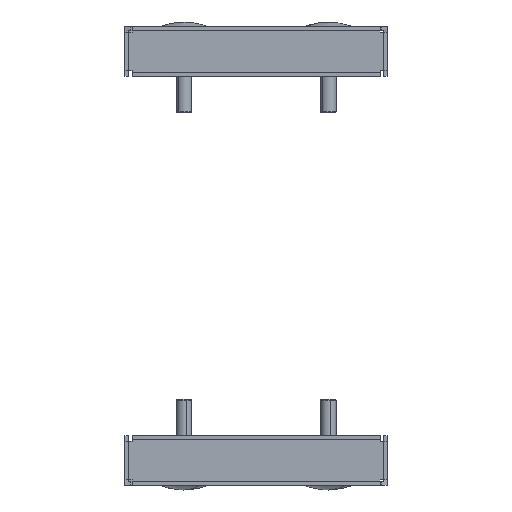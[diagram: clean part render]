
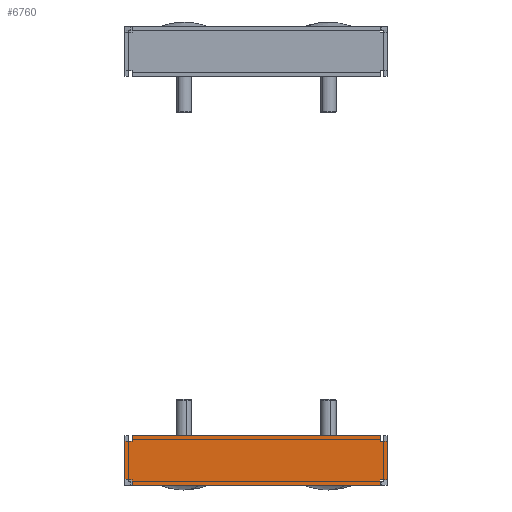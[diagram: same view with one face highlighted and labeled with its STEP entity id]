
A CAD part, left-side view. The second image highlights one B-rep face of the part: STEP entity #6760.
In plain terms, the highlighted planar face has unit normal (-1, 0, 0).
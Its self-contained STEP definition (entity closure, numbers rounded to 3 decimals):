
#11 = VERTEX_POINT ( 'NONE', #6403 ) ;
#55 = DIRECTION ( 'NONE',  ( 0., 1., 0. ) ) ;
#82 = DIRECTION ( 'NONE',  ( 0., 0., 1. ) ) ;
#228 = VERTEX_POINT ( 'NONE', #8610 ) ;
#248 = CARTESIAN_POINT ( 'NONE',  ( -249.5, 49.649, 0.758 ) ) ;
#282 = EDGE_CURVE ( 'NONE', #8970, #9864, #2452, .T. ) ;
#293 = VECTOR ( 'NONE', #1389, 1000. ) ;
#321 = ORIENTED_EDGE ( 'NONE', *, *, #2326, .T. ) ;
#431 = CARTESIAN_POINT ( 'NONE',  ( -249.5, -47.3, 15.4 ) ) ;
#522 = DIRECTION ( 'NONE',  ( 0., 0., -1. ) ) ;
#560 = EDGE_CURVE ( 'NONE', #5444, #11, #5119, .T. ) ;
#619 = EDGE_CURVE ( 'NONE', #9864, #7060, #1586, .T. ) ;
#772 = LINE ( 'NONE', #1630, #2071 ) ;
#851 = LINE ( 'NONE', #957, #9461 ) ;
#957 = CARTESIAN_POINT ( 'NONE',  ( -249.5, -47.9, 0.6 ) ) ;
#1008 = LINE ( 'NONE', #6967, #9627 ) ;
#1115 = VECTOR ( 'NONE', #3165, 1000. ) ;
#1119 = CARTESIAN_POINT ( 'NONE',  ( -249.5, -47.9, 0.6 ) ) ;
#1129 = EDGE_CURVE ( 'NONE', #5036, #2892, #9097, .T. ) ;
#1135 = CARTESIAN_POINT ( 'NONE',  ( -249.5, -47.3, 0.6 ) ) ;
#1305 = CARTESIAN_POINT ( 'NONE',  ( -249.5, 50., 0. ) ) ;
#1322 = CARTESIAN_POINT ( 'NONE',  ( -249.5, 47.9, 15.4 ) ) ;
#1389 = DIRECTION ( 'NONE',  ( 0., 0., 1. ) ) ;
#1575 = CARTESIAN_POINT ( 'NONE',  ( -249.5, -47.3, 15.4 ) ) ;
#1586 = LINE ( 'NONE', #3039, #1825 ) ;
#1630 = CARTESIAN_POINT ( 'NONE',  ( -249.5, 0., -1.5 ) ) ;
#1706 = CARTESIAN_POINT ( 'NONE',  ( -249.5, -47.3, 17.5 ) ) ;
#1825 = VECTOR ( 'NONE', #82, 1000. ) ;
#1897 = CARTESIAN_POINT ( 'NONE',  ( -249.5, 0., 17.5 ) ) ;
#1972 = ORIENTED_EDGE ( 'NONE', *, *, #2124, .T. ) ;
#2071 = VECTOR ( 'NONE', #4658, 1000. ) ;
#2101 = VERTEX_POINT ( 'NONE', #1706 ) ;
#2124 = EDGE_CURVE ( 'NONE', #2380, #6299, #6241, .T. ) ;
#2178 = DIRECTION ( 'NONE',  ( 0., 1., 0. ) ) ;
#2189 = CARTESIAN_POINT ( 'NONE',  ( -249.5, -50., 0. ) ) ;
#2233 = CARTESIAN_POINT ( 'NONE',  ( -249.5, 47.9, 0.6 ) ) ;
#2242 = EDGE_CURVE ( 'NONE', #228, #11, #772, .T. ) ;
#2258 = ORIENTED_EDGE ( 'NONE', *, *, #6567, .T. ) ;
#2309 = CARTESIAN_POINT ( 'NONE',  ( -249.5, 50., 15.4 ) ) ;
#2326 = EDGE_CURVE ( 'NONE', #3908, #7990, #2911, .T. ) ;
#2380 = VERTEX_POINT ( 'NONE', #9081 ) ;
#2391 = EDGE_CURVE ( 'NONE', #6447, #2892, #4598, .T. ) ;
#2407 = VECTOR ( 'NONE', #5905, 1000. ) ;
#2452 = LINE ( 'NONE', #3974, #6164 ) ;
#2470 = FACE_OUTER_BOUND ( 'NONE', #5313, .T. ) ;
#2744 = CARTESIAN_POINT ( 'NONE',  ( -249.5, 48.599, 0.674 ) ) ;
#2760 = CARTESIAN_POINT ( 'NONE',  ( -249.5, 47.9, 15.4 ) ) ;
#2873 = ORIENTED_EDGE ( 'NONE', *, *, #560, .F. ) ;
#2892 = VERTEX_POINT ( 'NONE', #4065 ) ;
#2911 = LINE ( 'NONE', #1305, #2407 ) ;
#2965 = CARTESIAN_POINT ( 'NONE',  ( -249.5, -48.599, 0.674 ) ) ;
#3039 = CARTESIAN_POINT ( 'NONE',  ( -249.5, 47.3, 0. ) ) ;
#3165 = DIRECTION ( 'NONE',  ( 0., 1., 0. ) ) ;
#3188 = AXIS2_PLACEMENT_3D ( 'NONE', #9330, #4640, #5396 ) ;
#3253 = DIRECTION ( 'NONE',  ( 0., -1., 0. ) ) ;
#3271 = ORIENTED_EDGE ( 'NONE', *, *, #4163, .T. ) ;
#3509 = DIRECTION ( 'NONE',  ( 0., -1., 0. ) ) ;
#3597 = B_SPLINE_CURVE_WITH_KNOTS ( 'NONE', 3,
 ( #7349, #248, #5638, #2744, #6596, #9665 ),
 .UNSPECIFIED., .F., .F.,
 ( 4, 2, 4 ),
 ( 0.006, 0.007, 0.008 ),
 .UNSPECIFIED. ) ;
#3614 = ORIENTED_EDGE ( 'NONE', *, *, #8161, .T. ) ;
#3680 = CARTESIAN_POINT ( 'NONE',  ( -249.5, 47.3, 17.5 ) ) ;
#3899 = CARTESIAN_POINT ( 'NONE',  ( -249.5, 47.3, 0.6 ) ) ;
#3908 = VERTEX_POINT ( 'NONE', #2309 ) ;
#3974 = CARTESIAN_POINT ( 'NONE',  ( -249.5, 47.9, 15.4 ) ) ;
#4065 = CARTESIAN_POINT ( 'NONE',  ( -249.5, -50., 0.777 ) ) ;
#4094 = DIRECTION ( 'NONE',  ( 0., 0., -1. ) ) ;
#4163 = EDGE_CURVE ( 'NONE', #6299, #2101, #9712, .T. ) ;
#4176 = ORIENTED_EDGE ( 'NONE', *, *, #2242, .T. ) ;
#4409 = VECTOR ( 'NONE', #5255, 1000. ) ;
#4463 = EDGE_CURVE ( 'NONE', #2380, #5036, #1008, .T. ) ;
#4593 = CARTESIAN_POINT ( 'NONE',  ( -249.5, 50., 0.777 ) ) ;
#4598 = B_SPLINE_CURVE_WITH_KNOTS ( 'NONE', 3,
 ( #6614, #7465, #2965, #5853, #5242, #9680 ),
 .UNSPECIFIED., .F., .F.,
 ( 4, 2, 4 ),
 ( 0.006, 0.007, 0.008 ),
 .UNSPECIFIED. ) ;
#4640 = DIRECTION ( 'NONE',  ( 1., 0., 0. ) ) ;
#4658 = DIRECTION ( 'NONE',  ( 0., -1., 0. ) ) ;
#4824 = CARTESIAN_POINT ( 'NONE',  ( -249.5, -47.9, 15.4 ) ) ;
#4832 = ORIENTED_EDGE ( 'NONE', *, *, #2391, .T. ) ;
#5014 = EDGE_CURVE ( 'NONE', #7990, #7863, #3597, .T. ) ;
#5036 = VERTEX_POINT ( 'NONE', #6213 ) ;
#5119 = LINE ( 'NONE', #8198, #5511 ) ;
#5189 = ORIENTED_EDGE ( 'NONE', *, *, #619, .F. ) ;
#5242 = CARTESIAN_POINT ( 'NONE',  ( -249.5, -49.649, 0.758 ) ) ;
#5255 = DIRECTION ( 'NONE',  ( 0., 0., -1. ) ) ;
#5313 = EDGE_LOOP ( 'NONE', ( #1972, #3271, #7330, #5189, #7379, #2258, #321, #7664, #9518, #3614, #4176, #2873, #8301, #4832, #9922, #9107 ) ) ;
#5396 = DIRECTION ( 'NONE',  ( 0., 0., -1. ) ) ;
#5444 = VERTEX_POINT ( 'NONE', #1135 ) ;
#5511 = VECTOR ( 'NONE', #522, 1000. ) ;
#5638 = CARTESIAN_POINT ( 'NONE',  ( -249.5, 49.299, 0.734 ) ) ;
#5694 = CARTESIAN_POINT ( 'NONE',  ( -249.5, 47.3, 0.6 ) ) ;
#5757 = VECTOR ( 'NONE', #3509, 1000. ) ;
#5853 = CARTESIAN_POINT ( 'NONE',  ( -249.5, -49.299, 0.734 ) ) ;
#5905 = DIRECTION ( 'NONE',  ( 0., 0., -1. ) ) ;
#6114 = CARTESIAN_POINT ( 'NONE',  ( -249.5, 47.3, 15.4 ) ) ;
#6164 = VECTOR ( 'NONE', #9266, 1000. ) ;
#6213 = CARTESIAN_POINT ( 'NONE',  ( -249.5, -50., 15.4 ) ) ;
#6241 = LINE ( 'NONE', #4824, #1115 ) ;
#6299 = VERTEX_POINT ( 'NONE', #1575 ) ;
#6403 = CARTESIAN_POINT ( 'NONE',  ( -249.5, -47.3, -1.5 ) ) ;
#6430 = LINE ( 'NONE', #1897, #7125 ) ;
#6433 = VECTOR ( 'NONE', #4094, 1000. ) ;
#6447 = VERTEX_POINT ( 'NONE', #1119 ) ;
#6567 = EDGE_CURVE ( 'NONE', #8970, #3908, #6715, .T. ) ;
#6596 = CARTESIAN_POINT ( 'NONE',  ( -249.5, 48.249, 0.637 ) ) ;
#6603 = LINE ( 'NONE', #5694, #6433 ) ;
#6614 = CARTESIAN_POINT ( 'NONE',  ( -249.5, -47.9, 0.6 ) ) ;
#6660 = VECTOR ( 'NONE', #2178, 1000. ) ;
#6715 = LINE ( 'NONE', #2760, #6660 ) ;
#6760 = ADVANCED_FACE ( 'NONE', ( #2470 ), #7824, .F. ) ;
#6810 = EDGE_CURVE ( 'NONE', #6447, #5444, #851, .T. ) ;
#6870 = CARTESIAN_POINT ( 'NONE',  ( -249.5, 47.9, 0.6 ) ) ;
#6967 = CARTESIAN_POINT ( 'NONE',  ( -249.5, 0., 15.4 ) ) ;
#7060 = VERTEX_POINT ( 'NONE', #3680 ) ;
#7125 = VECTOR ( 'NONE', #3253, 1000. ) ;
#7330 = ORIENTED_EDGE ( 'NONE', *, *, #8833, .F. ) ;
#7349 = CARTESIAN_POINT ( 'NONE',  ( -249.5, 50., 0.777 ) ) ;
#7359 = EDGE_CURVE ( 'NONE', #7863, #7975, #8756, .T. ) ;
#7379 = ORIENTED_EDGE ( 'NONE', *, *, #282, .F. ) ;
#7465 = CARTESIAN_POINT ( 'NONE',  ( -249.5, -48.249, 0.637 ) ) ;
#7664 = ORIENTED_EDGE ( 'NONE', *, *, #5014, .T. ) ;
#7824 = PLANE ( 'NONE',  #3188 ) ;
#7863 = VERTEX_POINT ( 'NONE', #6870 ) ;
#7975 = VERTEX_POINT ( 'NONE', #3899 ) ;
#7990 = VERTEX_POINT ( 'NONE', #4593 ) ;
#8161 = EDGE_CURVE ( 'NONE', #7975, #228, #6603, .T. ) ;
#8198 = CARTESIAN_POINT ( 'NONE',  ( -249.5, -47.3, 0. ) ) ;
#8301 = ORIENTED_EDGE ( 'NONE', *, *, #6810, .F. ) ;
#8610 = CARTESIAN_POINT ( 'NONE',  ( -249.5, 47.3, -1.5 ) ) ;
#8756 = LINE ( 'NONE', #2233, #5757 ) ;
#8833 = EDGE_CURVE ( 'NONE', #7060, #2101, #6430, .T. ) ;
#8970 = VERTEX_POINT ( 'NONE', #1322 ) ;
#9081 = CARTESIAN_POINT ( 'NONE',  ( -249.5, -47.9, 15.4 ) ) ;
#9097 = LINE ( 'NONE', #2189, #4409 ) ;
#9107 = ORIENTED_EDGE ( 'NONE', *, *, #4463, .F. ) ;
#9237 = DIRECTION ( 'NONE',  ( 0., -1., 0. ) ) ;
#9266 = DIRECTION ( 'NONE',  ( 0., -1., 0. ) ) ;
#9330 = CARTESIAN_POINT ( 'NONE',  ( -249.5, 0., 0. ) ) ;
#9461 = VECTOR ( 'NONE', #55, 1000. ) ;
#9518 = ORIENTED_EDGE ( 'NONE', *, *, #7359, .T. ) ;
#9627 = VECTOR ( 'NONE', #9237, 1000. ) ;
#9665 = CARTESIAN_POINT ( 'NONE',  ( -249.5, 47.9, 0.6 ) ) ;
#9680 = CARTESIAN_POINT ( 'NONE',  ( -249.5, -50., 0.777 ) ) ;
#9712 = LINE ( 'NONE', #431, #293 ) ;
#9864 = VERTEX_POINT ( 'NONE', #6114 ) ;
#9922 = ORIENTED_EDGE ( 'NONE', *, *, #1129, .F. ) ;
